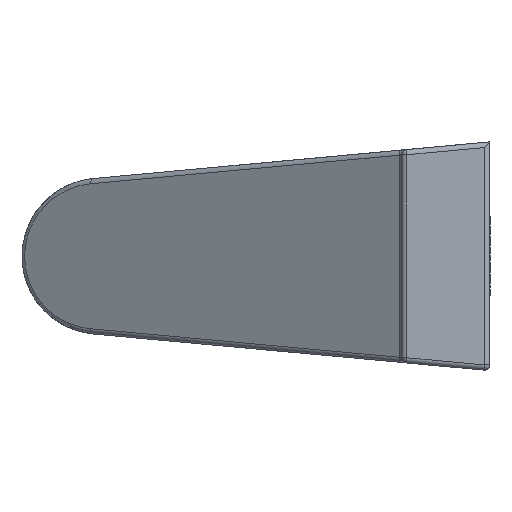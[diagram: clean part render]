
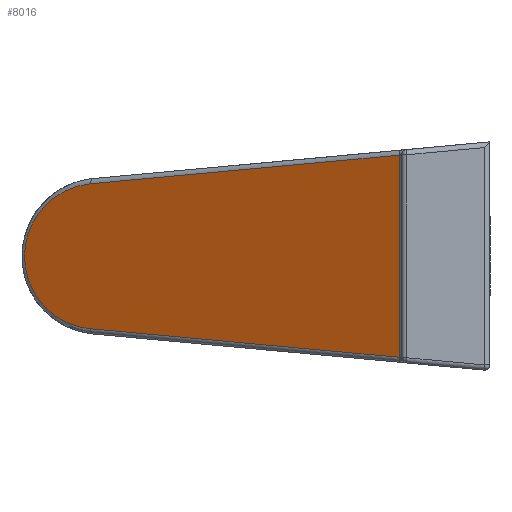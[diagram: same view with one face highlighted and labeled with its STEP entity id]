
A CAD part, left-side view. The second image highlights one B-rep face of the part: STEP entity #8016.
In plain terms, the highlighted planar face has unit normal (-0.861, 0.509, 0).
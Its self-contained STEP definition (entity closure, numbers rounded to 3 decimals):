
#14 = PLANE ( 'NONE',  #9685 ) ;
#570 = CARTESIAN_POINT ( 'NONE',  ( 39.095, 38.399, 6.97 ) ) ;
#596 = VERTEX_POINT ( 'NONE', #11439 ) ;
#1951 = EDGE_CURVE ( 'NONE', #10857, #3924, #12009, .T. ) ;
#1979 = EDGE_CURVE ( 'NONE', #6199, #10857, #2449, .T. ) ;
#2261 = DIRECTION ( 'NONE',  ( 0.861, -0.509, 0. ) ) ;
#2449 =( BOUNDED_CURVE ( )  B_SPLINE_CURVE ( 3, ( #570, #8283, #2916, #13968 ),
 .UNSPECIFIED., .F., .T. ) 
 B_SPLINE_CURVE_WITH_KNOTS ( ( 4, 4 ),
 ( 1.663, 4.62 ),
 .UNSPECIFIED. ) 
 CURVE ( )  GEOMETRIC_REPRESENTATION_ITEM ( )  RATIONAL_B_SPLINE_CURVE ( ( 1., 0.395, 0.395, 1. ) ) 
 REPRESENTATION_ITEM ( '' )  );
#2678 = FACE_OUTER_BOUND ( 'NONE', #10487, .T. ) ;
#2916 = CARTESIAN_POINT ( 'NONE',  ( 46.029, 50.122, -5.886 ) ) ;
#2936 = EDGE_CURVE ( 'NONE', #3924, #596, #12854, .T. ) ;
#3924 = VERTEX_POINT ( 'NONE', #6521 ) ;
#4482 = ORIENTED_EDGE ( 'NONE', *, *, #6320, .T. ) ;
#4954 = CARTESIAN_POINT ( 'NONE',  ( 39.095, 38.399, 6.97 ) ) ;
#6138 = VECTOR ( 'NONE', #6405, 1000. ) ;
#6199 = VERTEX_POINT ( 'NONE', #4954 ) ;
#6232 = ORIENTED_EDGE ( 'NONE', *, *, #2936, .T. ) ;
#6320 = EDGE_CURVE ( 'NONE', #596, #6199, #6334, .T. ) ;
#6334 = LINE ( 'NONE', #7340, #6689 ) ;
#6405 = DIRECTION ( 'NONE',  ( -0.508, -0.858, -0.079 ) ) ;
#6521 = CARTESIAN_POINT ( 'NONE',  ( 21.555, 8.745, -9.713 ) ) ;
#6689 = VECTOR ( 'NONE', #8466, 1000. ) ;
#7340 = CARTESIAN_POINT ( 'NONE',  ( 20.922, 7.675, 9.812 ) ) ;
#7341 = CARTESIAN_POINT ( 'NONE',  ( 4.25, -20.509, -12.418 ) ) ;
#8016 = ADVANCED_FACE ( 'NONE', ( #2678 ), #14, .F. ) ;
#8283 = CARTESIAN_POINT ( 'NONE',  ( 46.029, 50.122, 5.886 ) ) ;
#8466 = DIRECTION ( 'NONE',  ( 0.508, 0.858, -0.079 ) ) ;
#9507 = CARTESIAN_POINT ( 'NONE',  ( 39.095, 38.399, -6.97 ) ) ;
#9685 = AXIS2_PLACEMENT_3D ( 'NONE', #11049, #2261, #9997 ) ;
#9997 = DIRECTION ( 'NONE',  ( 0.509, 0.861, 0. ) ) ;
#10369 = ORIENTED_EDGE ( 'NONE', *, *, #1951, .T. ) ;
#10487 = EDGE_LOOP ( 'NONE', ( #6232, #4482, #10506, #10369 ) ) ;
#10506 = ORIENTED_EDGE ( 'NONE', *, *, #1979, .T. ) ;
#10857 = VERTEX_POINT ( 'NONE', #9507 ) ;
#11049 = CARTESIAN_POINT ( 'NONE',  ( 12.135, -7.178, -207. ) ) ;
#11279 = DIRECTION ( 'NONE',  ( 0., 0., 1. ) ) ;
#11439 = CARTESIAN_POINT ( 'NONE',  ( 21.555, 8.745, 9.713 ) ) ;
#12009 = LINE ( 'NONE', #7341, #6138 ) ;
#12511 = VECTOR ( 'NONE', #11279, 1000. ) ;
#12854 = LINE ( 'NONE', #13515, #12511 ) ;
#13515 = CARTESIAN_POINT ( 'NONE',  ( 21.555, 8.745, 10.214 ) ) ;
#13968 = CARTESIAN_POINT ( 'NONE',  ( 39.095, 38.399, -6.97 ) ) ;
